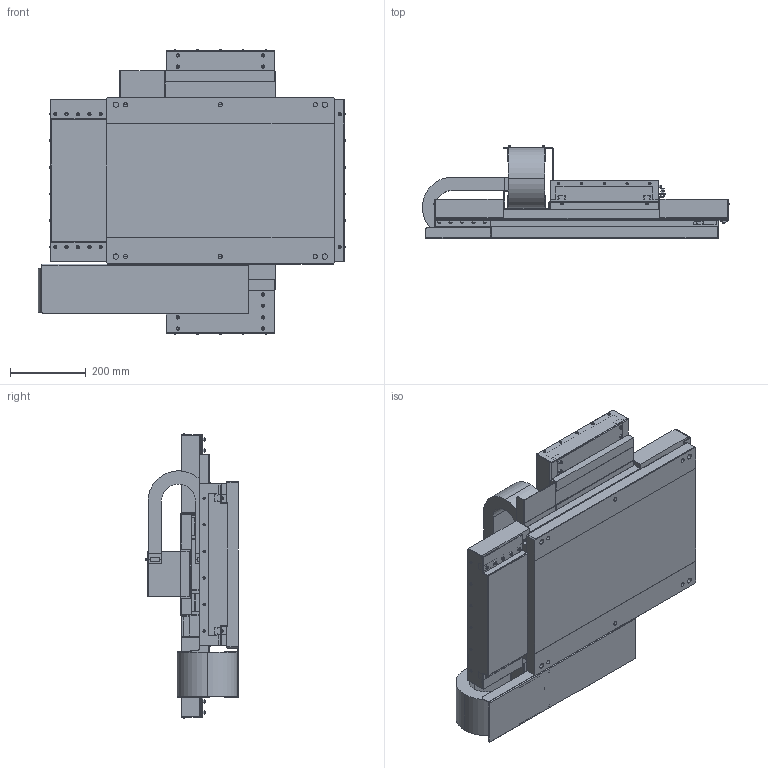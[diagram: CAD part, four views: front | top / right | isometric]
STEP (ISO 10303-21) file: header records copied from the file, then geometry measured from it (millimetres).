
FILE_DESCRIPTION (( 'STEP AP214' ), '1' );
FILE_NAME ('NST-D25B425A4BPJB_#2.00_0.STEP', '2021-04-02T07:31:09', ( '' ), ( '' ), 'SwSTEP 2.0', 'SolidWorks 2018', '' );
FILE_SCHEMA (( 'AUTOMOTIVE_DESIGN' ));
Length unit declared in the file: millimetre
Products named in the file (9): A6A03110_-側_Org; A6A03120_+側_Org; 14XK0680; AUA02120; AUA02100; 14XK0690; A6A03120_-側_Org; NST-D25B425A4BPJB_#2.00_0; AUA02110
Assembly tree (9 placements, depth 2):
  NST-D25B425A4BPJB_#2.00_0
    AUA02100
    AUA02110
    AUA02120
    14XK0680
    14XK0690
    A6A03110_-側_Org  x2
    A6A03120_+側_Org
    A6A03120_-側_Org
Bounding box: 809.28 x 245 x 750 mm (x, y, z)
Volume: 25121725.4 mm3; surface area: 4243254.6 mm2
Topology: 72 solids, 72 shells, 2953 faces, 7551 edges, 4835 vertices
Faces by surface type: plane 1911, cylinder 764, cone 130, torus 96, sphere 48, bspline 4
Entity records: 117780 total; most frequent: CARTESIAN_POINT 19261, ORIENTED_EDGE 14650, DIRECTION 14623, EDGE_CURVE 7325, AXIS2_PLACEMENT_3D 4887, LINE 4849, VECTOR 4849, VERTEX_POINT 4715
